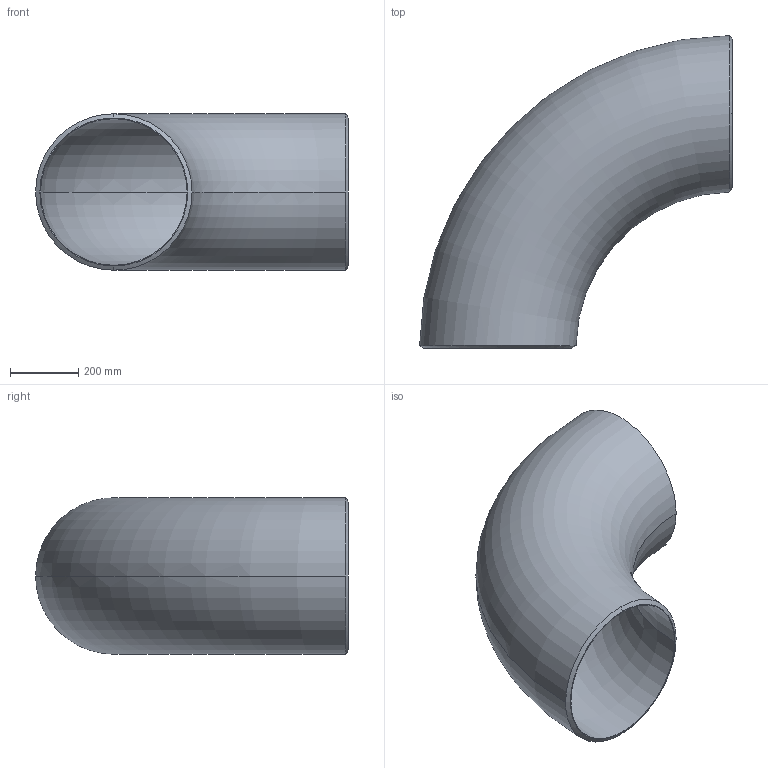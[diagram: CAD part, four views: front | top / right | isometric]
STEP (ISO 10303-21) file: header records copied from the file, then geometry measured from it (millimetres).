
FILE_DESCRIPTION (( 'STEP AP214' ), '1' );
FILE_NAME ('Elbow-long-90deg_Sch40-450A.STEP', '2021-08-24T06:50:03', ( 'ASIS User' ), ( 'ASIS User' ), 'SwSTEP 2.0', 'SolidWorks 2021', '' );
FILE_SCHEMA (( 'AUTOMOTIVE_DESIGN' ));
Length unit declared in the file: millimetre
Products named in the file (1): Elbow-long-90deg_Sch40-450A
Bounding box: 914.37 x 914.37 x 457.2 mm (x, y, z)
Volume: 21297779.8 mm3; surface area: 3021480.9 mm2
Topology: 1 solids, 1 shells, 10 faces, 24 edges, 16 vertices
Faces by surface type: torus 4, cone 4, plane 2
Entity records: 724 total; most frequent: CARTESIAN_POINT 453, DIRECTION 50, ORIENTED_EDGE 48, EDGE_CURVE 24, AXIS2_PLACEMENT_3D 23, VERTEX_POINT 16, CIRCLE 12, EDGE_LOOP 12
